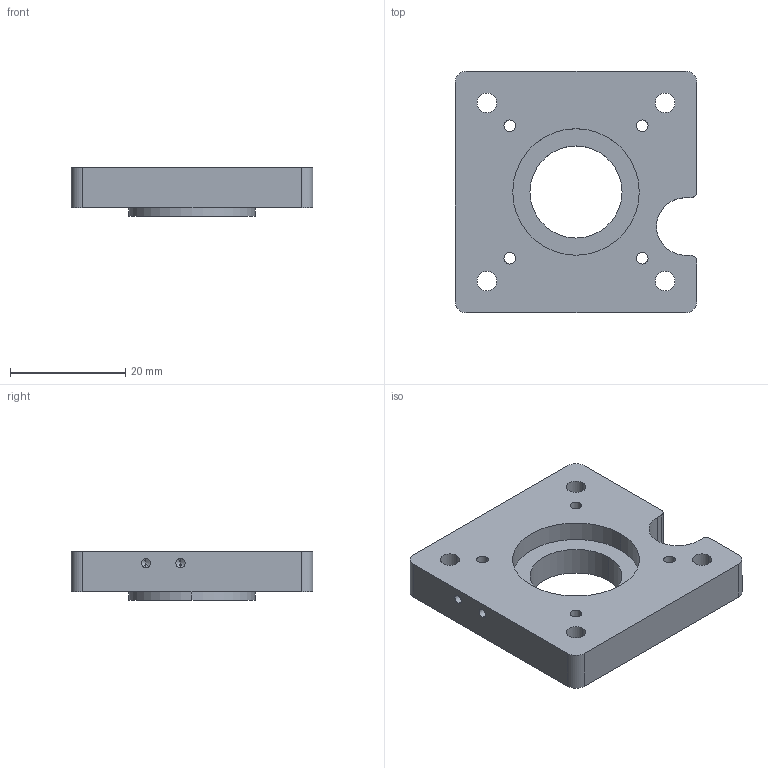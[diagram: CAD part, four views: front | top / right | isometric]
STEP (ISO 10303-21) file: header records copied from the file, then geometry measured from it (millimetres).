
FILE_DESCRIPTION (( 'STEP AP203' ), '1' );
FILE_NAME ('42框馬達轉接板.STEP', '2023-11-30T02:49:22', ( '' ), ( '' ), 'SwSTEP 2.0', 'SolidWorks 2019', '' );
FILE_SCHEMA (( 'CONFIG_CONTROL_DESIGN' ));
Length unit declared in the file: millimetre
Products named in the file (1): 42框馬達轉接板
Bounding box: 42 x 42 x 8.5 mm (x, y, z)
Volume: 9416.5 mm3; surface area: 5445.2 mm2
Topology: 1 solids, 1 shells, 69 faces, 175 edges, 110 vertices
Faces by surface type: cylinder 46, plane 15, cone 8
Entity records: 2174 total; most frequent: DIRECTION 399, CARTESIAN_POINT 347, ORIENTED_EDGE 334, EDGE_CURVE 167, AXIS2_PLACEMENT_3D 162, VERTEX_POINT 110, EDGE_LOOP 97, CIRCLE 92
